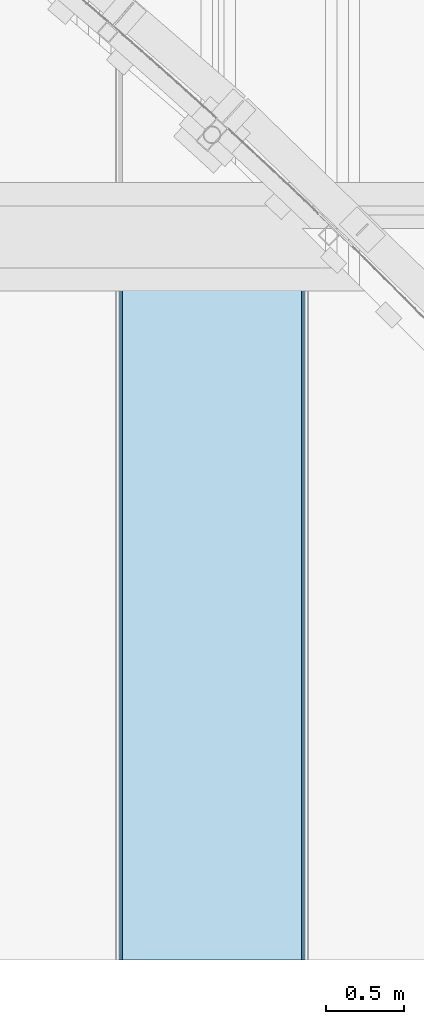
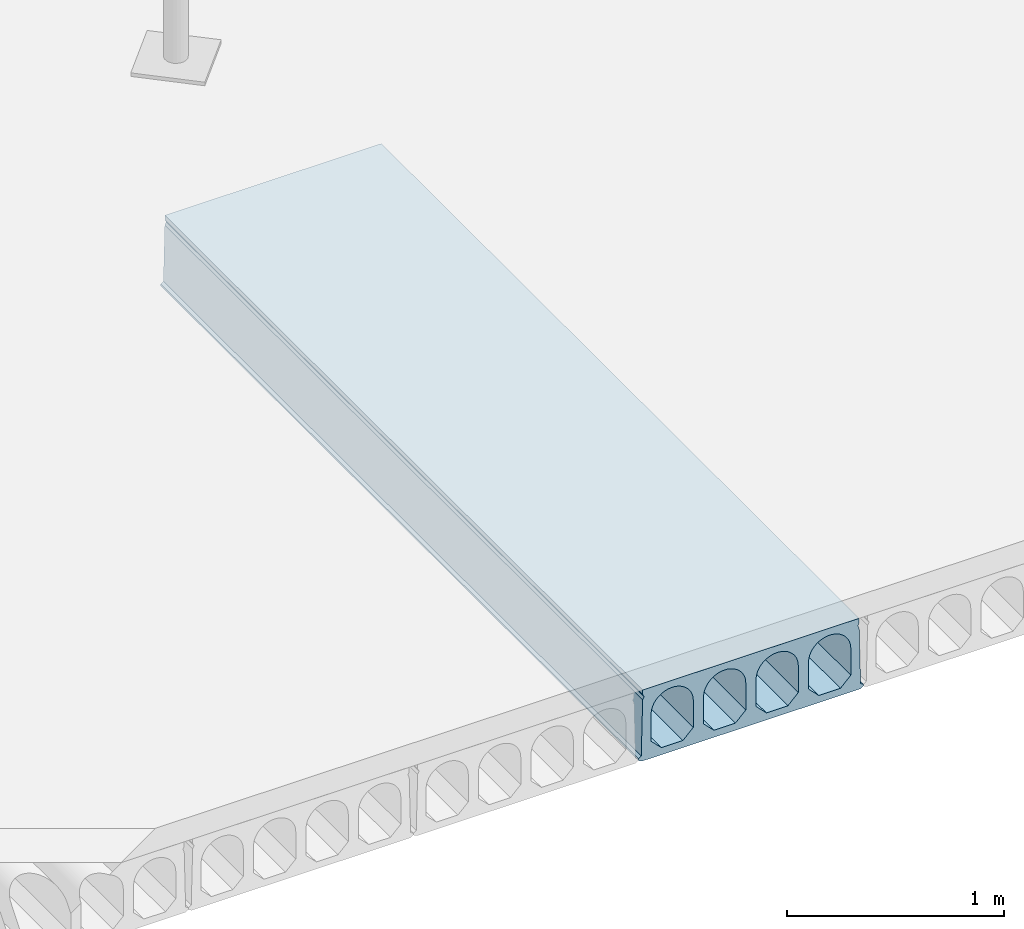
# One storey, part 48 of 98: 1 slab.
"""IFC2X3 building model written with IfcOpenShell, lengths in millimetres."""

from ifc_helpers import new_model, entity, si_unit, converted_unit, derived_unit, direction, frame, origin_with_axes, place, context, subcontext, project, spatial, faceted_brep, type_object, element, save


model = new_model("IFC2X3")

# Units and contexts
model_context = context("Model", 3, precision=0.01, world=frame((0.0, 4.29681676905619e-09, 0.0)), true_north=direction((4.01073788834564e-13, 1.0)))
plan_context = context("Plan", 3, precision=0.01, world=frame((0.0, 4.29681676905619e-09, 0.0)), true_north=direction((4.01073788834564e-13, 1.0)))
body_context = subcontext(model_context, "Body", "Model", "MODEL_VIEW")
ifc_project = project(units=[converted_unit("PLANEANGLEUNIT", "DEGREE", entity("IfcPositiveLengthMeasure", 0.0174532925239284), si_unit("PLANEANGLEUNIT", "RADIAN"), dimensions=[0, 0, 0, 0, 0, 0, 0]), si_unit("AREAUNIT", "SQUARE_METRE"), si_unit("LENGTHUNIT", "METRE", prefix="MILLI"), si_unit("MASSUNIT", "GRAM", prefix="KILO"), si_unit("POWERUNIT", "WATT"), si_unit("PRESSUREUNIT", "PASCAL"), si_unit("FORCEUNIT", "NEWTON", prefix="KILO"), si_unit("ELECTRICCURRENTUNIT", "AMPERE"), si_unit("THERMODYNAMICTEMPERATUREUNIT", "DEGREE_CELSIUS"), si_unit("TIMEUNIT", "SECOND"), si_unit("VOLUMEUNIT", "CUBIC_METRE"), derived_unit("LINEARVELOCITYUNIT", [(si_unit("LENGTHUNIT", "METRE"), 1), (si_unit("TIMEUNIT", "SECOND"), -1)]), derived_unit("VOLUMETRICFLOWRATEUNIT", [(si_unit("VOLUMEUNIT", "CUBIC_METRE"), 1), (si_unit("TIMEUNIT", "SECOND"), -1)]), derived_unit("THERMALTRANSMITTANCEUNIT", [(si_unit("POWERUNIT", "WATT"), 1), (si_unit("THERMODYNAMICTEMPERATUREUNIT", "KELVIN"), -1), (si_unit("AREAUNIT", "SQUARE_METRE"), -1)])], contexts=[model_context, plan_context])

# Site, building, storey
site_placement = place(None, frame((0.0, -4.29681676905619e-09, 0.0), z_axis=(0.0, 0.0, 1.0), x_axis=(1.0, 0.0, 0.0)))
site = spatial("IfcSite", under=ifc_project, at=site_placement, Name="Gardermoen", CompositionType="ELEMENT")
building_placement = place(site_placement, frame((0.0, 4.29681676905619e-09, 0.0), z_axis=(0.0, 0.0, 1.0), x_axis=(1.0, 0.0, 0.0)))
building = spatial("IfcBuilding", under=site, at=building_placement, Name="TS", CompositionType="ELEMENT")
storey_placement = place(building_placement, origin_with_axes())
storey = spatial("IfcBuildingStorey", under=building, at=storey_placement, Name="D", CompositionType="ELEMENT", Elevation=0.0)

# Slab
slab_type = type_object("IfcSlabType", Name="HD400", PredefinedType="NOTDEFINED")
slab_placement = place(storey_placement, frame((525999.999766, 396739.995625, 203600.0), z_axis=(0.0, 0.0, 1.0), x_axis=(0.0, 1.0, 0.0)))
element("IfcSlab", 1, at=slab_placement, inside=storey, type_object=slab_type, Name="HULLDEKKE", ObjectType="HD400", PredefinedType="FLOOR", context=body_context, shape_type="Brep", body=[
    faceted_brep([(4105.68103395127, 600.0, -180.0), (4105.68103395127, 600.0, -190.0), (8520.0, 600.0, -190.0), (8520.0, 600.0, -180.0), (4105.68103395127, 585.0, -170.0), (8520.0, 585.0, -170.0), (4105.68103395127, 577.5, 145.0), (8520.0, 577.5, 145.0), (4105.68103395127, 570.0, 160.0), (8520.0, 570.0, 160.0), (4105.68103395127, 577.5, 175.0), (8520.0, 577.5, 175.0), (4105.68103395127, 577.5, 200.0), (8520.0, 577.5, 200.0), (4105.68103395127, -577.5, 200.0), (8520.0, -577.5, 200.0), (4105.68103395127, -577.5, 175.0), (8520.0, -577.5, 175.0), (4105.68103395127, -570.0, 160.0), (8520.0, -570.0, 160.0), (4105.68103395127, -577.5, 145.0), (8520.0, -577.5, 145.0), (4105.68103395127, -585.0, -170.0), (8520.0, -585.0, -170.0), (4105.68103395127, -600.0, -180.0), (8520.0, -600.0, -180.0), (4105.68103395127, -600.0, -190.0), (8520.0, -600.0, -190.0), (4105.68103395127, -583.380004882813, -200.0), (8520.0, -583.380004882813, -200.0), (4105.68103395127, 583.380004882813, -200.0), (8520.0, 583.380004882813, -200.0), (4105.68103395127, -477.5, -160.0), (4105.68103395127, -362.5, -160.0), (8520.0, -362.5, -160.0), (8520.0, -477.5, -160.0), (4105.68103395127, -532.5, -105.0), (8520.0, -532.5, -105.0), (4105.68103395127, -532.5, 47.5), (8520.0, -532.5, 47.5), (4105.68103395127, -532.115755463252, 56.7901763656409), (8520.0, -532.115755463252, 56.7901763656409), (4105.68103395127, -530.965646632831, 66.0168914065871), (8520.0, -530.965646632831, 66.0168914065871), (4105.68103395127, -529.057529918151, 75.1171173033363), (8520.0, -529.057529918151, 75.1171173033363), (4105.68103395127, -526.404439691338, 84.028690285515), (8520.0, -526.404439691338, 84.028690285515), (4105.68103395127, -523.024499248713, 92.6907352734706), (8520.0, -523.024499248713, 92.6907352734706), (4105.68103395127, -518.940797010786, 101.044081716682), (8520.0, -518.940797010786, 101.044081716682), (4105.68103395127, -514.181228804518, 109.031667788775), (8520.0, -514.181228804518, 109.031667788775), (4105.68103395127, -508.778307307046, 116.598930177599), (8520.0, -508.778307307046, 116.598930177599), (4105.68103395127, -502.768939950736, 123.694176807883), (8520.0, -502.768939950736, 123.694176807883), (4105.68103395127, -496.194176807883, 130.268939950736), (8520.0, -496.194176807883, 130.268939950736), (4105.68103395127, -489.098930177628, 136.278307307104), (8520.0, -489.098930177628, 136.278307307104), (4105.68103395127, -481.531667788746, 141.681228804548), (8520.0, -481.531667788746, 141.681228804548), (4105.68103395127, -473.544081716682, 146.440797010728), (8520.0, -473.544081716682, 146.440797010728), (4105.68103395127, -465.190735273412, 150.524499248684), (8520.0, -465.190735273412, 150.524499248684), (4105.68103395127, -456.528690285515, 153.904439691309), (8520.0, -456.528690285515, 153.904439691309), (4105.68103395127, -447.617117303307, 156.55752991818), (8520.0, -447.617117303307, 156.55752991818), (4105.68103395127, -438.516891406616, 158.465646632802), (8520.0, -438.516891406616, 158.465646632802), (4105.68103395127, -429.290176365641, 159.615755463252), (8520.0, -429.290176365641, 159.615755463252), (4105.68103395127, -420.0, 160.0), (8520.0, -420.0, 160.0), (4105.68103395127, -410.709823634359, 159.615755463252), (8520.0, -410.709823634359, 159.615755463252), (4105.68103395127, -401.483108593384, 158.465646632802), (8520.0, -401.483108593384, 158.465646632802), (4105.68103395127, -392.382882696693, 156.55752991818), (8520.0, -392.382882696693, 156.55752991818), (4105.68103395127, -383.471309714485, 153.904439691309), (8520.0, -383.471309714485, 153.904439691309), (4105.68103395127, -374.809264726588, 150.524499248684), (8520.0, -374.809264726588, 150.524499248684), (4105.68103395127, -366.455918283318, 146.440797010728), (8520.0, -366.455918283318, 146.440797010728), (4105.68103395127, -358.468332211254, 141.681228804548), (8520.0, -358.468332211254, 141.681228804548), (4105.68103395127, -350.901069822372, 136.278307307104), (8520.0, -350.901069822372, 136.278307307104), (4105.68103395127, -343.805823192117, 130.268939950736), (8520.0, -343.805823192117, 130.268939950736), (4105.68103395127, -337.231060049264, 123.694176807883), (8520.0, -337.231060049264, 123.694176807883), (4105.68103395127, -331.221692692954, 116.598930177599), (8520.0, -331.221692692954, 116.598930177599), (4105.68103395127, -325.818771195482, 109.031667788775), (8520.0, -325.818771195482, 109.031667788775), (4105.68103395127, -321.059202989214, 101.044081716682), (8520.0, -321.059202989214, 101.044081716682), (4105.68103395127, -316.975500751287, 92.6907352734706), (8520.0, -316.975500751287, 92.6907352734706), (4105.68103395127, -313.595560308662, 84.028690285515), (8520.0, -313.595560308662, 84.028690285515), (4105.68103395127, -310.942470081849, 75.1171173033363), (8520.0, -310.942470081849, 75.1171173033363), (4105.68103395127, -309.034353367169, 66.0168914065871), (8520.0, -309.034353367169, 66.0168914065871), (4105.68103395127, -307.884244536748, 56.7901763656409), (8520.0, -307.884244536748, 56.7901763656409), (4105.68103395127, -307.5, 47.5), (8520.0, -307.5, 47.5), (4105.68103395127, -307.5, -105.0), (8520.0, -307.5, -105.0), (4105.68103395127, -197.5, -160.0), (4105.68103395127, -82.5, -160.0), (8520.0, -82.5, -160.0), (8520.0, -197.5, -160.0), (4105.68103395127, -252.5, -105.0), (8520.0, -252.5, -105.0), (4105.68103395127, -252.5, 47.5), (8520.0, -252.5, 47.5), (4105.68103395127, -252.115755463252, 56.7901763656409), (8520.0, -252.115755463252, 56.7901763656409), (4105.68103395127, -250.965646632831, 66.0168914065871), (8520.0, -250.965646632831, 66.0168914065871), (4105.68103395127, -249.057529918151, 75.1171173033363), (8520.0, -249.057529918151, 75.1171173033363), (4105.68103395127, -246.404439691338, 84.028690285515), (8520.0, -246.404439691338, 84.028690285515), (4105.68103395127, -243.024499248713, 92.6907352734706), (8520.0, -243.024499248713, 92.6907352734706), (4105.68103395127, -238.940797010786, 101.044081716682), (8520.0, -238.940797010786, 101.044081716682), (4105.68103395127, -234.181228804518, 109.031667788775), (8520.0, -234.181228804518, 109.031667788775), (4105.68103395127, -228.778307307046, 116.598930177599), (8520.0, -228.778307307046, 116.598930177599), (4105.68103395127, -222.768939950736, 123.694176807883), (8520.0, -222.768939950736, 123.694176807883), (4105.68103395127, -216.194176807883, 130.268939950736), (8520.0, -216.194176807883, 130.268939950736), (4105.68103395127, -209.098930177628, 136.278307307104), (8520.0, -209.098930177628, 136.278307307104), (4105.68103395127, -201.531667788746, 141.681228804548), (8520.0, -201.531667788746, 141.681228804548), (4105.68103395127, -193.544081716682, 146.440797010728), (8520.0, -193.544081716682, 146.440797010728), (4105.68103395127, -185.190735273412, 150.524499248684), (8520.0, -185.190735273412, 150.524499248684), (4105.68103395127, -176.528690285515, 153.904439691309), (8520.0, -176.528690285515, 153.904439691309), (4105.68103395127, -167.617117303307, 156.55752991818), (8520.0, -167.617117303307, 156.55752991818), (4105.68103395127, -158.516891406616, 158.465646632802), (8520.0, -158.516891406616, 158.465646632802), (4105.68103395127, -149.290176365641, 159.615755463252), (8520.0, -149.290176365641, 159.615755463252), (4105.68103395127, -140.0, 160.0), (8520.0, -140.0, 160.0), (4105.68103395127, -130.709823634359, 159.615755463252), (8520.0, -130.709823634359, 159.615755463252), (4105.68103395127, -121.483108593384, 158.465646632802), (8520.0, -121.483108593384, 158.465646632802), (4105.68103395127, -112.382882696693, 156.55752991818), (8520.0, -112.382882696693, 156.55752991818), (4105.68103395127, -103.471309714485, 153.904439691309), (8520.0, -103.471309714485, 153.904439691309), (4105.68103395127, -94.8092647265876, 150.524499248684), (8520.0, -94.8092647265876, 150.524499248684), (4105.68103395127, -86.4559182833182, 146.440797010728), (8520.0, -86.4559182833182, 146.440797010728), (4105.68103395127, -78.4683322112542, 141.681228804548), (8520.0, -78.4683322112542, 141.681228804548), (4105.68103395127, -70.9010698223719, 136.278307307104), (8520.0, -70.9010698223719, 136.278307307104), (4105.68103395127, -63.8058231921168, 130.268939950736), (8520.0, -63.8058231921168, 130.268939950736), (4105.68103395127, -57.2310600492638, 123.694176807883), (8520.0, -57.2310600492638, 123.694176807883), (4105.68103395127, -51.2216926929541, 116.598930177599), (8520.0, -51.2216926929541, 116.598930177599), (4105.68103395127, -45.8187711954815, 109.031667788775), (8520.0, -45.8187711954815, 109.031667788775), (4105.68103395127, -41.0592029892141, 101.044081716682), (8520.0, -41.0592029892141, 101.044081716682), (4105.68103395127, -36.9755007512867, 92.6907352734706), (8520.0, -36.9755007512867, 92.6907352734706), (4105.68103395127, -33.5955603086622, 84.028690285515), (8520.0, -33.5955603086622, 84.028690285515), (4105.68103395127, -30.942470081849, 75.1171173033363), (8520.0, -30.942470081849, 75.1171173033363), (4105.68103395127, -29.0343533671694, 66.0168914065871), (8520.0, -29.0343533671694, 66.0168914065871), (4105.68103395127, -27.8842445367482, 56.7901763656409), (8520.0, -27.8842445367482, 56.7901763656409), (4105.68103395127, -27.5, 47.5), (8520.0, -27.5, 47.5), (4105.68103395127, -27.5, -105.0), (8520.0, -27.5, -105.0), (4105.68103395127, 82.5, -160.0), (4105.68103395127, 197.5, -160.0), (8520.0, 197.5, -160.0), (8520.0, 82.5, -160.0), (4105.68103395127, 27.5, -105.0), (8520.0, 27.5, -105.0), (4105.68103395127, 27.5, 47.5), (8520.0, 27.5, 47.5), (4105.68103395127, 27.8842445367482, 56.7901763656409), (8520.0, 27.8842445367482, 56.7901763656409), (4105.68103395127, 29.0343533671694, 66.0168914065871), (8520.0, 29.0343533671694, 66.0168914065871), (4105.68103395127, 30.942470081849, 75.1171173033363), (8520.0, 30.942470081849, 75.1171173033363), (4105.68103395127, 33.5955603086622, 84.028690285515), (8520.0, 33.5955603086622, 84.028690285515), (4105.68103395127, 36.9755007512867, 92.6907352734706), (8520.0, 36.9755007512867, 92.6907352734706), (4105.68103395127, 41.0592029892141, 101.044081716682), (8520.0, 41.0592029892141, 101.044081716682), (4105.68103395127, 45.8187711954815, 109.031667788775), (8520.0, 45.8187711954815, 109.031667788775), (4105.68103395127, 51.2216926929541, 116.598930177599), (8520.0, 51.2216926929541, 116.598930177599), (4105.68103395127, 57.2310600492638, 123.694176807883), (8520.0, 57.2310600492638, 123.694176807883), (4105.68103395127, 63.8058231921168, 130.268939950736), (8520.0, 63.8058231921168, 130.268939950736), (4105.68103395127, 70.9010698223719, 136.278307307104), (8520.0, 70.9010698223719, 136.278307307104), (4105.68103395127, 78.4683322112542, 141.681228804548), (8520.0, 78.4683322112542, 141.681228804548), (4105.68103395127, 86.4559182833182, 146.440797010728), (8520.0, 86.4559182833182, 146.440797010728), (4105.68103395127, 94.8092647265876, 150.524499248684), (8520.0, 94.8092647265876, 150.524499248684), (4105.68103395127, 103.471309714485, 153.904439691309), (8520.0, 103.471309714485, 153.904439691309), (4105.68103395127, 112.382882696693, 156.55752991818), (8520.0, 112.382882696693, 156.55752991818), (4105.68103395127, 121.483108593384, 158.465646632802), (8520.0, 121.483108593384, 158.465646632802), (4105.68103395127, 130.709823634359, 159.615755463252), (8520.0, 130.709823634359, 159.615755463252), (4105.68103395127, 140.0, 160.0), (8520.0, 140.0, 160.0), (4105.68103395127, 149.290176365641, 159.615755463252), (8520.0, 149.290176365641, 159.615755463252), (4105.68103395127, 158.516891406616, 158.465646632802), (8520.0, 158.516891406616, 158.465646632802), (4105.68103395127, 167.617117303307, 156.55752991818), (8520.0, 167.617117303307, 156.55752991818), (4105.68103395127, 176.528690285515, 153.904439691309), (8520.0, 176.528690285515, 153.904439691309), (4105.68103395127, 185.190735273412, 150.524499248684), (8520.0, 185.190735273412, 150.524499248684), (4105.68103395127, 193.544081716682, 146.440797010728), (8520.0, 193.544081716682, 146.440797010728), (4105.68103395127, 201.531667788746, 141.681228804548), (8520.0, 201.531667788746, 141.681228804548), (4105.68103395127, 209.098930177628, 136.278307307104), (8520.0, 209.098930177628, 136.278307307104), (4105.68103395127, 216.194176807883, 130.268939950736), (8520.0, 216.194176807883, 130.268939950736), (4105.68103395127, 222.768939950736, 123.694176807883), (8520.0, 222.768939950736, 123.694176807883), (4105.68103395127, 228.778307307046, 116.598930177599), (8520.0, 228.778307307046, 116.598930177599), (4105.68103395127, 234.181228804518, 109.031667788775), (8520.0, 234.181228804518, 109.031667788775), (4105.68103395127, 238.940797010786, 101.044081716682), (8520.0, 238.940797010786, 101.044081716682), (4105.68103395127, 243.024499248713, 92.6907352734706), (8520.0, 243.024499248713, 92.6907352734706), (4105.68103395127, 246.404439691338, 84.028690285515), (8520.0, 246.404439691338, 84.028690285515), (4105.68103395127, 249.057529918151, 75.1171173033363), (8520.0, 249.057529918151, 75.1171173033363), (4105.68103395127, 250.965646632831, 66.0168914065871), (8520.0, 250.965646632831, 66.0168914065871), (4105.68103395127, 252.115755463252, 56.7901763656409), (8520.0, 252.115755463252, 56.7901763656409), (4105.68103395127, 252.5, 47.5), (8520.0, 252.5, 47.5), (4105.68103395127, 252.5, -105.0), (8520.0, 252.5, -105.0), (4105.68103395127, 362.5, -160.0), (4105.68103395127, 477.5, -160.0), (8520.0, 477.5, -160.0), (8520.0, 362.5, -160.0), (4105.68103395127, 307.5, -105.0), (8520.0, 307.5, -105.0), (4105.68103395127, 307.5, 47.5), (8520.0, 307.5, 47.5), (4105.68103395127, 307.884244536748, 56.7901763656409), (8520.0, 307.884244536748, 56.7901763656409), (4105.68103395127, 309.034353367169, 66.0168914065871), (8520.0, 309.034353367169, 66.0168914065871), (4105.68103395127, 310.942470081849, 75.1171173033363), (8520.0, 310.942470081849, 75.1171173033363), (4105.68103395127, 313.595560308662, 84.028690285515), (8520.0, 313.595560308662, 84.028690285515), (4105.68103395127, 316.975500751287, 92.6907352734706), (8520.0, 316.975500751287, 92.6907352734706), (4105.68103395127, 321.059202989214, 101.044081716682), (8520.0, 321.059202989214, 101.044081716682), (4105.68103395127, 325.818771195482, 109.031667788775), (8520.0, 325.818771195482, 109.031667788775), (4105.68103395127, 331.221692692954, 116.598930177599), (8520.0, 331.221692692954, 116.598930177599), (4105.68103395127, 337.231060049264, 123.694176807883), (8520.0, 337.231060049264, 123.694176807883), (4105.68103395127, 343.805823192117, 130.268939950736), (8520.0, 343.805823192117, 130.268939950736), (4105.68103395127, 350.901069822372, 136.278307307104), (8520.0, 350.901069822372, 136.278307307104), (4105.68103395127, 358.468332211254, 141.681228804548), (8520.0, 358.468332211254, 141.681228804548), (4105.68103395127, 366.455918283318, 146.440797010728), (8520.0, 366.455918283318, 146.440797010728), (4105.68103395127, 374.809264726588, 150.524499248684), (8520.0, 374.809264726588, 150.524499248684), (4105.68103395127, 383.471309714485, 153.904439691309), (8520.0, 383.471309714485, 153.904439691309), (4105.68103395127, 392.382882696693, 156.55752991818), (8520.0, 392.382882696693, 156.55752991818), (4105.68103395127, 401.483108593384, 158.465646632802), (8520.0, 401.483108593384, 158.465646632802), (4105.68103395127, 410.709823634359, 159.615755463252), (8520.0, 410.709823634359, 159.615755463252), (4105.68103395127, 420.0, 160.0), (8520.0, 420.0, 160.0), (4105.68103395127, 429.290176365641, 159.615755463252), (8520.0, 429.290176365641, 159.615755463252), (4105.68103395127, 438.516891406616, 158.465646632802), (8520.0, 438.516891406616, 158.465646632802), (4105.68103395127, 447.617117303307, 156.55752991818), (8520.0, 447.617117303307, 156.55752991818), (4105.68103395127, 456.528690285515, 153.904439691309), (8520.0, 456.528690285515, 153.904439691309), (4105.68103395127, 465.190735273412, 150.524499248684), (8520.0, 465.190735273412, 150.524499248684), (4105.68103395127, 473.544081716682, 146.440797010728), (8520.0, 473.544081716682, 146.440797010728), (4105.68103395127, 481.531667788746, 141.681228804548), (8520.0, 481.531667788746, 141.681228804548), (4105.68103395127, 489.098930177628, 136.278307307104), (8520.0, 489.098930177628, 136.278307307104), (4105.68103395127, 496.194176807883, 130.268939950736), (8520.0, 496.194176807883, 130.268939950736), (4105.68103395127, 502.768939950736, 123.694176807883), (8520.0, 502.768939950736, 123.694176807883), (4105.68103395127, 508.778307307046, 116.598930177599), (8520.0, 508.778307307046, 116.598930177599), (4105.68103395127, 514.181228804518, 109.031667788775), (8520.0, 514.181228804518, 109.031667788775), (4105.68103395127, 518.940797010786, 101.044081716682), (8520.0, 518.940797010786, 101.044081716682), (4105.68103395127, 523.024499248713, 92.6907352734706), (8520.0, 523.024499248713, 92.6907352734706), (4105.68103395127, 526.404439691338, 84.028690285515), (8520.0, 526.404439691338, 84.028690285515), (4105.68103395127, 529.057529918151, 75.1171173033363), (8520.0, 529.057529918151, 75.1171173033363), (4105.68103395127, 530.965646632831, 66.0168914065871), (8520.0, 530.965646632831, 66.0168914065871), (4105.68103395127, 532.115755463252, 56.7901763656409), (8520.0, 532.115755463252, 56.7901763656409), (4105.68103395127, 532.5, 47.5), (8520.0, 532.5, 47.5), (4105.68103395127, 532.5, -105.0), (8520.0, 532.5, -105.0)], [[[0, 1, 2, 3]], [[4, 0, 3, 5]], [[6, 4, 5, 7]], [[8, 6, 7, 9]], [[10, 8, 9, 11]], [[12, 10, 11, 13]], [[14, 12, 13, 15]], [[16, 14, 15, 17]], [[18, 16, 17, 19]], [[20, 18, 19, 21]], [[22, 20, 21, 23]], [[24, 22, 23, 25]], [[26, 24, 25, 27]], [[28, 26, 27, 29]], [[30, 28, 29, 31]], [[1, 30, 31, 2]], [[32, 33, 34, 35]], [[36, 32, 35, 37]], [[38, 36, 37, 39]], [[40, 38, 39, 41]], [[42, 40, 41, 43]], [[44, 42, 43, 45]], [[46, 44, 45, 47]], [[48, 46, 47, 49]], [[50, 48, 49, 51]], [[52, 50, 51, 53]], [[54, 52, 53, 55]], [[56, 54, 55, 57]], [[58, 56, 57, 59]], [[60, 58, 59, 61]], [[62, 60, 61, 63]], [[64, 62, 63, 65]], [[66, 64, 65, 67]], [[68, 66, 67, 69]], [[70, 68, 69, 71]], [[72, 70, 71, 73]], [[74, 72, 73, 75]], [[76, 74, 75, 77]], [[78, 76, 77, 79]], [[80, 78, 79, 81]], [[82, 80, 81, 83]], [[84, 82, 83, 85]], [[86, 84, 85, 87]], [[88, 86, 87, 89]], [[90, 88, 89, 91]], [[92, 90, 91, 93]], [[94, 92, 93, 95]], [[96, 94, 95, 97]], [[98, 96, 97, 99]], [[100, 98, 99, 101]], [[102, 100, 101, 103]], [[104, 102, 103, 105]], [[106, 104, 105, 107]], [[108, 106, 107, 109]], [[110, 108, 109, 111]], [[112, 110, 111, 113]], [[114, 112, 113, 115]], [[116, 114, 115, 117]], [[33, 116, 117, 34]], [[118, 119, 120, 121]], [[122, 118, 121, 123]], [[124, 122, 123, 125]], [[126, 124, 125, 127]], [[128, 126, 127, 129]], [[130, 128, 129, 131]], [[132, 130, 131, 133]], [[134, 132, 133, 135]], [[136, 134, 135, 137]], [[138, 136, 137, 139]], [[140, 138, 139, 141]], [[142, 140, 141, 143]], [[144, 142, 143, 145]], [[146, 144, 145, 147]], [[148, 146, 147, 149]], [[150, 148, 149, 151]], [[152, 150, 151, 153]], [[154, 152, 153, 155]], [[156, 154, 155, 157]], [[158, 156, 157, 159]], [[160, 158, 159, 161]], [[162, 160, 161, 163]], [[164, 162, 163, 165]], [[166, 164, 165, 167]], [[168, 166, 167, 169]], [[170, 168, 169, 171]], [[172, 170, 171, 173]], [[174, 172, 173, 175]], [[176, 174, 175, 177]], [[178, 176, 177, 179]], [[180, 178, 179, 181]], [[182, 180, 181, 183]], [[184, 182, 183, 185]], [[186, 184, 185, 187]], [[188, 186, 187, 189]], [[190, 188, 189, 191]], [[192, 190, 191, 193]], [[194, 192, 193, 195]], [[196, 194, 195, 197]], [[198, 196, 197, 199]], [[200, 198, 199, 201]], [[202, 200, 201, 203]], [[119, 202, 203, 120]], [[204, 205, 206, 207]], [[208, 204, 207, 209]], [[210, 208, 209, 211]], [[212, 210, 211, 213]], [[214, 212, 213, 215]], [[216, 214, 215, 217]], [[218, 216, 217, 219]], [[220, 218, 219, 221]], [[222, 220, 221, 223]], [[224, 222, 223, 225]], [[226, 224, 225, 227]], [[228, 226, 227, 229]], [[230, 228, 229, 231]], [[232, 230, 231, 233]], [[234, 232, 233, 235]], [[236, 234, 235, 237]], [[238, 236, 237, 239]], [[240, 238, 239, 241]], [[242, 240, 241, 243]], [[244, 242, 243, 245]], [[246, 244, 245, 247]], [[248, 246, 247, 249]], [[250, 248, 249, 251]], [[252, 250, 251, 253]], [[254, 252, 253, 255]], [[256, 254, 255, 257]], [[258, 256, 257, 259]], [[260, 258, 259, 261]], [[262, 260, 261, 263]], [[264, 262, 263, 265]], [[266, 264, 265, 267]], [[268, 266, 267, 269]], [[270, 268, 269, 271]], [[272, 270, 271, 273]], [[274, 272, 273, 275]], [[276, 274, 275, 277]], [[278, 276, 277, 279]], [[280, 278, 279, 281]], [[282, 280, 281, 283]], [[284, 282, 283, 285]], [[286, 284, 285, 287]], [[288, 286, 287, 289]], [[205, 288, 289, 206]], [[290, 291, 292, 293]], [[294, 290, 293, 295]], [[296, 294, 295, 297]], [[298, 296, 297, 299]], [[300, 298, 299, 301]], [[302, 300, 301, 303]], [[304, 302, 303, 305]], [[306, 304, 305, 307]], [[308, 306, 307, 309]], [[310, 308, 309, 311]], [[312, 310, 311, 313]], [[314, 312, 313, 315]], [[316, 314, 315, 317]], [[318, 316, 317, 319]], [[320, 318, 319, 321]], [[322, 320, 321, 323]], [[324, 322, 323, 325]], [[326, 324, 325, 327]], [[328, 326, 327, 329]], [[330, 328, 329, 331]], [[332, 330, 331, 333]], [[334, 332, 333, 335]], [[336, 334, 335, 337]], [[338, 336, 337, 339]], [[340, 338, 339, 341]], [[342, 340, 341, 343]], [[344, 342, 343, 345]], [[346, 344, 345, 347]], [[348, 346, 347, 349]], [[350, 348, 349, 351]], [[352, 350, 351, 353]], [[354, 352, 353, 355]], [[356, 354, 355, 357]], [[358, 356, 357, 359]], [[360, 358, 359, 361]], [[362, 360, 361, 363]], [[364, 362, 363, 365]], [[366, 364, 365, 367]], [[368, 366, 367, 369]], [[370, 368, 369, 371]], [[372, 370, 371, 373]], [[374, 372, 373, 375]], [[291, 374, 375, 292]], [[3, 2, 31, 29, 27, 25, 23, 21, 19, 17, 15, 13, 11, 9, 7, 5], [293, 292, 375, 373, 371, 369, 367, 365, 363, 361, 359, 357, 355, 353, 351, 349, 347, 345, 343, 341, 339, 337, 335, 333, 331, 329, 327, 325, 323, 321, 319, 317, 315, 313, 311, 309, 307, 305, 303, 301, 299, 297, 295], [207, 206, 289, 287, 285, 283, 281, 279, 277, 275, 273, 271, 269, 267, 265, 263, 261, 259, 257, 255, 253, 251, 249, 247, 245, 243, 241, 239, 237, 235, 233, 231, 229, 227, 225, 223, 221, 219, 217, 215, 213, 211, 209], [121, 120, 203, 201, 199, 197, 195, 193, 191, 189, 187, 185, 183, 181, 179, 177, 175, 173, 171, 169, 167, 165, 163, 161, 159, 157, 155, 153, 151, 149, 147, 145, 143, 141, 139, 137, 135, 133, 131, 129, 127, 125, 123], [35, 34, 117, 115, 113, 111, 109, 107, 105, 103, 101, 99, 97, 95, 93, 91, 89, 87, 85, 83, 81, 79, 77, 75, 73, 71, 69, 67, 65, 63, 61, 59, 57, 55, 53, 51, 49, 47, 45, 43, 41, 39, 37]], [[4, 6, 8, 10, 12, 14, 16, 18, 20, 22, 24, 26, 28, 30, 1, 0], [36, 38, 40, 42, 44, 46, 48, 50, 52, 54, 56, 58, 60, 62, 64, 66, 68, 70, 72, 74, 76, 78, 80, 82, 84, 86, 88, 90, 92, 94, 96, 98, 100, 102, 104, 106, 108, 110, 112, 114, 116, 33, 32], [122, 124, 126, 128, 130, 132, 134, 136, 138, 140, 142, 144, 146, 148, 150, 152, 154, 156, 158, 160, 162, 164, 166, 168, 170, 172, 174, 176, 178, 180, 182, 184, 186, 188, 190, 192, 194, 196, 198, 200, 202, 119, 118], [208, 210, 212, 214, 216, 218, 220, 222, 224, 226, 228, 230, 232, 234, 236, 238, 240, 242, 244, 246, 248, 250, 252, 254, 256, 258, 260, 262, 264, 266, 268, 270, 272, 274, 276, 278, 280, 282, 284, 286, 288, 205, 204], [294, 296, 298, 300, 302, 304, 306, 308, 310, 312, 314, 316, 318, 320, 322, 324, 326, 328, 330, 332, 334, 336, 338, 340, 342, 344, 346, 348, 350, 352, 354, 356, 358, 360, 362, 364, 366, 368, 370, 372, 374, 291, 290]]], orient=[[False], [False], [False], [False], [False], [False], [False], [False], [False], [False], [False], [False], [False], [False], [False], [False], [False], [False], [False], [False], [False], [False], [False], [False], [False], [False], [False], [False], [False], [False], [False], [False], [False], [False], [False], [False], [False], [False], [False], [False], [False], [False], [False], [False], [False], [False], [False], [False], [False], [False], [False], [False], [False], [False], [False], [False], [False], [False], [False], [False], [False], [False], [False], [False], [False], [False], [False], [False], [False], [False], [False], [False], [False], [False], [False], [False], [False], [False], [False], [False], [False], [False], [False], [False], [False], [False], [False], [False], [False], [False], [False], [False], [False], [False], [False], [False], [False], [False], [False], [False], [False], [False], [False], [False], [False], [False], [False], [False], [False], [False], [False], [False], [False], [False], [False], [False], [False], [False], [False], [False], [False], [False], [False], [False], [False], [False], [False], [False], [False], [False], [False], [False], [False], [False], [False], [False], [False], [False], [False], [False], [False], [False], [False], [False], [False], [False], [False], [False], [False], [False], [False], [False], [False], [False], [False], [False], [False], [False], [False], [False], [False], [False], [False], [False], [False], [False], [False], [False], [False], [False], [False], [False], [False], [False], [False], [False], [False], [False], [False], [False], [False], [False], [False], [False], [False], [False], [False], [False], [False, False, False, False, False], [False, False, False, False, False]]),
])

save(model, "model.ifc")
